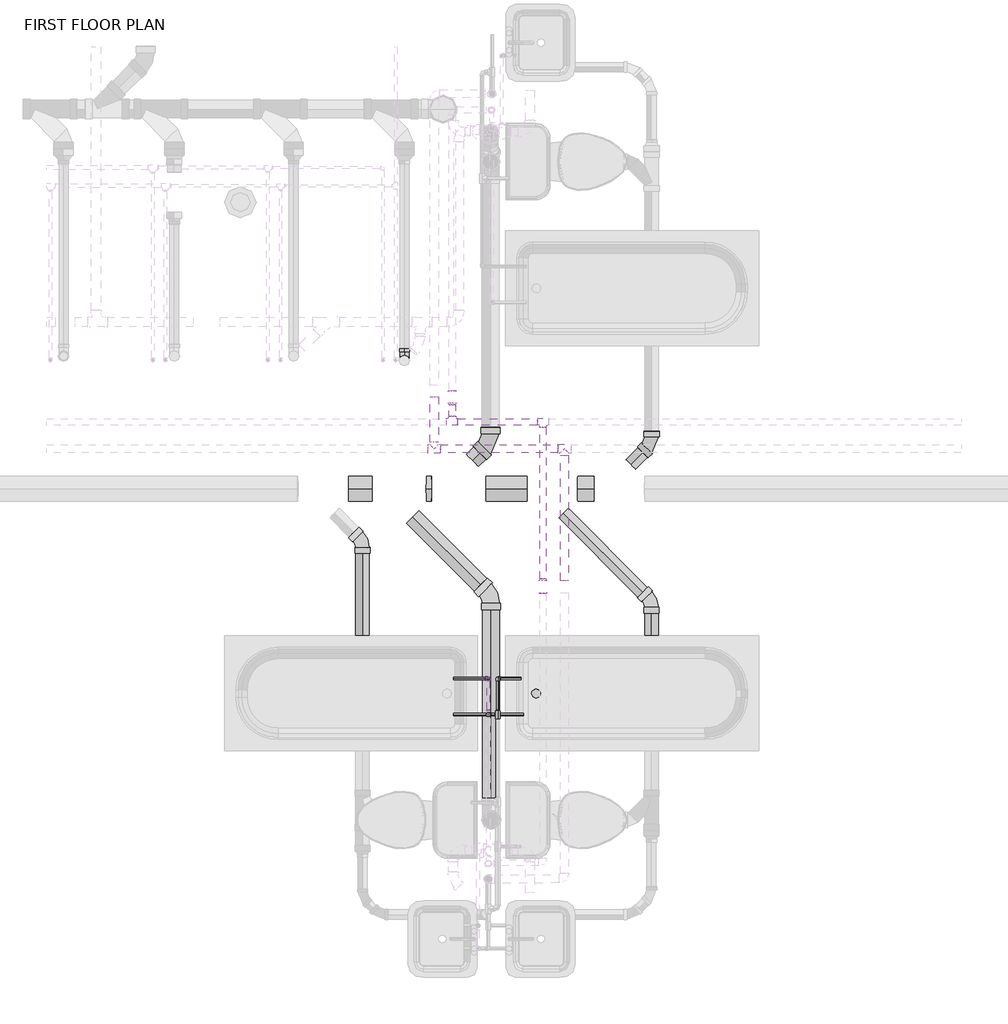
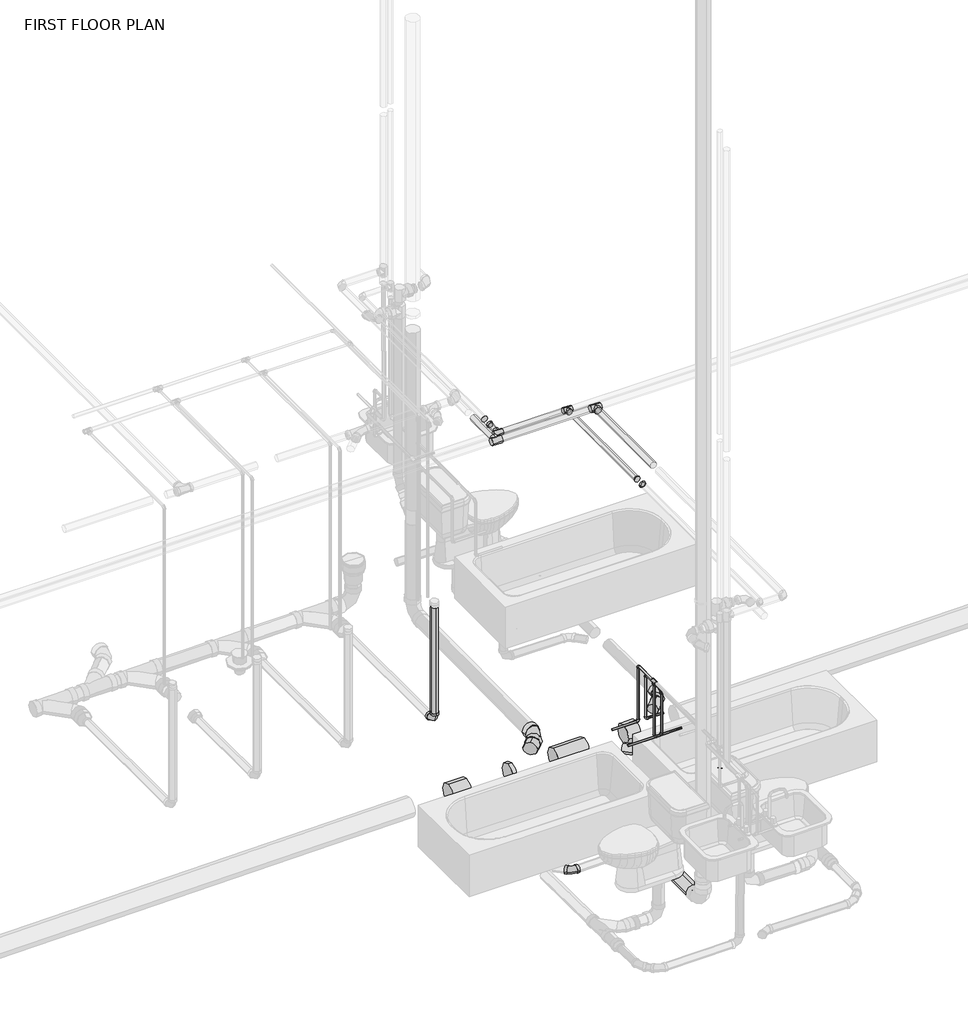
# One storey, part 24 of 29: 31 pipe segments, 29 pipe fittings.
"""IFC4 building model written with IfcOpenShell, lengths in millimetres."""

from ifc_helpers import new_model, si_unit, point, frame, frame_2d, origin, place, context, project, spatial, circle_curve, trimmed, segment, composite_curve, outline, extrude, transform, mapped, element, save
from components import bend_pvc_sch_40_dwv_standard_22595671, bend_pvc_sch_40_dwv_standard_3c7622ae, bend_pvc_sch_40_dwv_standard_52eb40f7, bend_pvc_sch_40_dwv_standard_dbf24498, bend_pvc_sch_40_dwv_standard_e2ec66d4, bend_pvc_sch_40_dwv_standard_2978f41e, bend_pvc_sch_40_dwv_standard_e57ccec4, bend_pvc_sch_40_dwv_standard_7045725e, bend_pvc_sch_40_dwv_standard_7d16cb2b, pipe_elbow_copper_k_aad62f2d, pipe_tee_copper_k_36278b8a, pipe_tee_copper_k_7127fd44, pipe_tee_copper_k_ee363fbf, pipe_transition_copper_k_c7248b3c, pipe_transition_copper_k_3b8d3413, pipe_transition_copper_k_859ff352

model = new_model("IFC4")

# Units and contexts
model_context = context("Model", 3, world=origin())
ifc_project = project(units=[si_unit("LENGTHUNIT", "METRE", prefix="MILLI")], contexts=[model_context])

# Site, building, storey
site = spatial("IfcSite", under=ifc_project)
building = spatial("IfcBuilding", under=site)
storey = spatial("IfcBuildingStorey", under=building, Name="FIRST FLOOR PLAN", Elevation=0.0)

# Pipe fittings
placement = place(None, origin())
bend_pvc_sch_40_dwv_standard_shape = bend_pvc_sch_40_dwv_standard_22595671(model_context)
element("IfcPipeFitting", 1, ObjectType="Bend - PVC - Sch 40 - DWV : Standard", at=placement, inside=storey, context=model_context, shape_type="MappedRepresentation", body=[
    mapped(bend_pvc_sch_40_dwv_standard_shape, transform((16286.4124034, 4158.2539362, -378.7287102), x_axis=(0.7066279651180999, -0.7075155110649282, 0.009935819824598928), y_axis=(0.7075086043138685, 0.7066884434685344, 0.004797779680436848), z_axis=(-0.010416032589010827, 0.003639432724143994, 0.9999391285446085))),
])
bend_pvc_sch_40_dwv_standard_2_shape = bend_pvc_sch_40_dwv_standard_3c7622ae(model_context)
element("IfcPipeFitting", 2, ObjectType="Bend - PVC - Sch 40 - DWV : Standard", at=placement, inside=storey, context=model_context, shape_type="MappedRepresentation", body=[
    mapped(bend_pvc_sch_40_dwv_standard_2_shape, transform((17237.9550186, 4158.7207118, -350.9217822), x_axis=(0.0, 0.0, -1.0), y_axis=(-1.0, 0.0, 0.0), z_axis=(0.0, 1.0, 0.0))),
])
bend_pvc_sch_40_dwv_standard_3_shape = bend_pvc_sch_40_dwv_standard_52eb40f7(model_context)
element("IfcPipeFitting", 3, ObjectType="Bend - PVC - Sch 40 - DWV : Standard", at=placement, inside=storey, context=model_context, shape_type="MappedRepresentation", body=[
    mapped(bend_pvc_sch_40_dwv_standard_3_shape, transform((17803.6568034, 4158.7207118, -356.8145091), x_axis=(-0.7066279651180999, -0.7075155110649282, 0.009935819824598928), y_axis=(0.7075086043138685, -0.7066884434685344, -0.004797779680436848), z_axis=(0.010416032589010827, 0.003639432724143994, 0.9999391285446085))),
])
bend_pvc_sch_40_dwv_standard_4_shape = bend_pvc_sch_40_dwv_standard_dbf24498(model_context)
element("IfcPipeFitting", 4, ObjectType="Bend - PVC - Sch 40 - DWV : Standard", at=placement, inside=storey, context=model_context, shape_type="MappedRepresentation", body=[
    mapped(bend_pvc_sch_40_dwv_standard_4_shape, transform((18002.3667471, 4770.9145691, -363.7822293), x_axis=(0.0, 0.9999701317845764, -0.0077288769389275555), y_axis=(-0.9999399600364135, -8.469252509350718e-05, -0.010957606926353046), z_axis=(-0.010957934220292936, 0.007728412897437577, 0.9999100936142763))),
])
bend_pvc_sch_40_dwv_standard_5_shape = bend_pvc_sch_40_dwv_standard_e2ec66d4(model_context)
element("IfcPipeFitting", 5, ObjectType="Bend - PVC - Sch 40 - DWV : Standard", at=placement, inside=storey, context=model_context, shape_type="MappedRepresentation", body=[
    mapped(bend_pvc_sch_40_dwv_standard_5_shape, transform((16365.3713415, 6363.442141, -362.0129996), x_axis=(-7.430675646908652e-06, 4.020402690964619e-05, -0.9999999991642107), y_axis=(4.804798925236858e-09, 0.9999999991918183, 4.020402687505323e-05), z_axis=(0.9999999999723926, -4.506055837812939e-09, -7.43067583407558e-06))),
])
bend_pvc_sch_40_dwv_standard_6_shape = bend_pvc_sch_40_dwv_standard_2978f41e(model_context)
element("IfcPipeFitting", 6, ObjectType="Bend - PVC - Sch 40 - DWV : Standard", at=placement, inside=storey, context=model_context, shape_type="MappedRepresentation", body=[
    mapped(bend_pvc_sch_40_dwv_standard_6_shape, transform((16939.2381199, 4808.1280837, -380.8956327), x_axis=(0.0, 1.0, 0.0), y_axis=(-0.9999457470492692, 0.0, -0.010416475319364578), z_axis=(-0.010416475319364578, 0.0, 0.9999457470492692))),
])
bend_pvc_sch_40_dwv_standard_7_shape = bend_pvc_sch_40_dwv_standard_e57ccec4(model_context)
element("IfcPipeFitting", 7, ObjectType="Bend - PVC - Sch 40 - DWV : Standard", at=placement, inside=storey, context=model_context, shape_type="MappedRepresentation", body=[
    mapped(bend_pvc_sch_40_dwv_standard_7_shape, transform((18002.6518493, 5813.1232004, -368.6354449), x_axis=(0.7070684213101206, 0.7070684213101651, 0.010416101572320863), y_axis=(-0.7070965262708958, 0.7071158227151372, -0.0013098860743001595), z_axis=(-0.00829156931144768, -0.006439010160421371, 0.9999448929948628))),
])
bend_pvc_sch_40_dwv_standard_8_shape = bend_pvc_sch_40_dwv_standard_7045725e(model_context)
element("IfcPipeFitting", 8, ObjectType="Bend - PVC - Sch 40 - DWV : Standard", at=placement, inside=storey, context=model_context, shape_type="MappedRepresentation", body=[
    mapped(bend_pvc_sch_40_dwv_standard_8_shape, transform((16087.4645224, 5167.6493109, -388.380548), x_axis=(0.0, 0.9999580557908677, 0.009158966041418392), y_axis=(-0.9997147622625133, 0.00021874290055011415, -0.023881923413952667), z_axis=(-0.02388292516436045, -0.009156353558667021, 0.9996728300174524))),
])
bend_pvc_sch_40_dwv_standard_9_shape = bend_pvc_sch_40_dwv_standard_7d16cb2b(model_context)
element("IfcPipeFitting", 9, ObjectType="Bend - PVC - Sch 40 - DWV : Standard", at=placement, inside=storey, context=model_context, shape_type="MappedRepresentation", body=[
    mapped(bend_pvc_sch_40_dwv_standard_9_shape, transform((16935.7564169, 5821.8758818, -379.6435202), x_axis=(0.7070666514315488, 0.7070642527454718, 0.010811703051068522), y_axis=(-0.7071300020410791, 0.7070728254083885, 0.0038961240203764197), z_axis=(-0.004889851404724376, -0.010400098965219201, 0.9999339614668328))),
])
pipe_elbow_copper_k_shape = pipe_elbow_copper_k_aad62f2d(model_context)
element("IfcPipeFitting", 10, ObjectType="Pipe Elbow : Copper- K", at=placement, inside=storey, context=model_context, shape_type="MappedRepresentation", body=[
    mapped(pipe_elbow_copper_k_shape, transform((16920.4834875, 4258.2262881, 1219.2), x_axis=(0.0, 1.0, 0.0), y_axis=(0.0, 0.0, -1.0), z_axis=(-1.0, 0.0, 0.0))),
])
element("IfcPipeFitting", 11, ObjectType="Pipe Elbow : Copper- K", at=placement, inside=storey, context=model_context, shape_type="MappedRepresentation", body=[
    mapped(pipe_elbow_copper_k_shape, transform((16920.4834875, 4258.2262881, 711.2), x_axis=(0.0, 0.0, -1.0), y_axis=(-1.0, 0.0, 0.0), z_axis=(0.0, 1.0, 0.0))),
])
element("IfcPipeFitting", 12, ObjectType="Pipe Elbow : Copper- K", at=placement, inside=storey, context=model_context, shape_type="MappedRepresentation", body=[
    mapped(pipe_elbow_copper_k_shape, transform((16920.4834875, 4018.2053571, 711.2), x_axis=(0.0, 0.0, -1.0), y_axis=(1.0, 0.0, 0.0), z_axis=(0.0, -1.0, 0.0))),
])
element("IfcPipeFitting", 13, ObjectType="Pipe Elbow : Copper- K", at=placement, inside=storey, context=model_context, shape_type="MappedRepresentation", body=[
    mapped(pipe_elbow_copper_k_shape, transform((16983.9834875, 4258.2262881, 1117.6), x_axis=(0.0, 1.0, 0.0), y_axis=(0.0, 0.0, -1.0), z_axis=(-1.0, 0.0, 0.0))),
])
element("IfcPipeFitting", 14, ObjectType="Pipe Elbow : Copper- K", at=placement, inside=storey, context=model_context, shape_type="MappedRepresentation", body=[
    mapped(pipe_elbow_copper_k_shape, transform((16983.9834875, 4258.2262881, 711.2), x_axis=(0.0, 0.0, -1.0), y_axis=(1.0, 0.0, 0.0), z_axis=(0.0, -1.0, 0.0))),
])
element("IfcPipeFitting", 15, ObjectType="Pipe Elbow : Copper- K", at=placement, inside=storey, context=model_context, shape_type="MappedRepresentation", body=[
    mapped(pipe_elbow_copper_k_shape, transform((16983.9834875, 4018.2053571, 711.2), x_axis=(0.0, 0.0, -1.0), y_axis=(-1.0, 0.0, 0.0), z_axis=(0.0, 1.0, 0.0))),
])
pipe_tee_copper_k_shape = pipe_tee_copper_k_36278b8a(model_context)
element("IfcPipeFitting", 16, ObjectType="Pipe Tee : Copper- K", at=placement, inside=storey, context=model_context, shape_type="MappedRepresentation", body=[
    mapped(pipe_tee_copper_k_shape, transform((16562.8624243, 5778.2175381, 2490.6882812), x_axis=(1.0, 0.0, 0.0), y_axis=(0.0, -1.0, 0.0), z_axis=(0.0, 0.0, -1.0))),
])
element("IfcPipeFitting", 17, ObjectType="Pipe Tee : Copper- K", at=placement, inside=storey, context=model_context, shape_type="MappedRepresentation", body=[
    mapped(pipe_tee_copper_k_shape, transform((17424.5084875, 5778.2175381, 2490.6882812), x_axis=(1.0, 0.0, 0.0), y_axis=(0.0, 1.0, 0.0), z_axis=(0.0, 0.0, 1.0))),
])
pipe_tee_copper_k_2_shape = pipe_tee_copper_k_7127fd44(model_context)
element("IfcPipeFitting", 18, ObjectType="Pipe Tee : Copper- K", at=placement, inside=storey, context=model_context, shape_type="MappedRepresentation", body=[
    mapped(pipe_tee_copper_k_2_shape, transform((16682.0146104, 5956.0175381, 2413.0), x_axis=(1.0, 0.0, 0.0), y_axis=(0.0, -1.0, 0.0), z_axis=(0.0, 0.0, -1.0))),
])
element("IfcPipeFitting", 19, ObjectType="Pipe Tee : Copper- K", at=placement, inside=storey, context=model_context, shape_type="MappedRepresentation", body=[
    mapped(pipe_tee_copper_k_2_shape, transform((17283.6898661, 5956.0175381, 2413.0), x_axis=(1.0, 0.0, 0.0), y_axis=(0.0, 1.0, 0.0), z_axis=(0.0, 0.0, 1.0))),
])
pipe_tee_copper_k_3_shape = pipe_tee_copper_k_ee363fbf(model_context)
element("IfcPipeFitting", 20, ObjectType="Pipe Tee : Copper- K", at=placement, inside=storey, context=model_context, shape_type="MappedRepresentation", body=[
    mapped(pipe_tee_copper_k_3_shape, transform((16920.4834875, 4018.2053571, 1219.2), x_axis=(0.0, -1.0, 0.0), y_axis=(0.0, 0.0, 1.0), z_axis=(-1.0, 0.0, 0.0))),
])
element("IfcPipeFitting", 21, ObjectType="Pipe Tee : Copper- K", at=placement, inside=storey, context=model_context, shape_type="MappedRepresentation", body=[
    mapped(pipe_tee_copper_k_3_shape, transform((16983.9834875, 4018.2053571, 1117.6), x_axis=(0.0, -1.0, 0.0), y_axis=(0.0, 0.0, 1.0), z_axis=(-1.0, 0.0, 0.0))),
])
pipe_transition_copper_k_shape = pipe_transition_copper_k_c7248b3c(model_context)
element("IfcPipeFitting", 22, ObjectType="Pipe Transition : Copper- K", at=placement, inside=storey, context=model_context, shape_type="MappedRepresentation", body=[
    mapped(pipe_transition_copper_k_shape, transform((16682.0146104, 6166.9606631, 2413.0), x_axis=(0.0, -1.0, 0.0), y_axis=(1.0, 0.0, 0.0), z_axis=(0.0, 0.0, 1.0))),
])
element("IfcPipeFitting", 23, ObjectType="Pipe Transition : Copper- K", at=placement, inside=storey, context=model_context, shape_type="MappedRepresentation", body=[
    mapped(pipe_transition_copper_k_shape, transform((17283.6898661, 4819.2049131, 2413.0), x_axis=(0.0, 1.0, 0.0), y_axis=(-1.0, 0.0, 0.0), z_axis=(0.0, 0.0, 1.0))),
])
pipe_transition_copper_k_2_shape = pipe_transition_copper_k_3b8d3413(model_context)
element("IfcPipeFitting", 24, ObjectType="Pipe Transition : Copper- K", at=placement, inside=storey, context=model_context, shape_type="MappedRepresentation", body=[
    mapped(pipe_transition_copper_k_2_shape, transform((16682.0146104, 6082.4897881, 2413.0), x_axis=(0.0, -1.0, 0.0), y_axis=(0.9999997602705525, 0.0, 0.0006924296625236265), z_axis=(-0.0006924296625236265, 0.0, 0.9999997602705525))),
])
element("IfcPipeFitting", 25, ObjectType="Pipe Transition : Copper- K", at=placement, inside=storey, context=model_context, shape_type="MappedRepresentation", body=[
    mapped(pipe_transition_copper_k_2_shape, transform((17283.6898661, 4903.6757881, 2413.0), x_axis=(0.0, 1.0, 0.0), y_axis=(-0.9999997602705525, 0.0, 0.0006924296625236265), z_axis=(0.0006924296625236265, 0.0, 0.9999997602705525))),
])
pipe_transition_copper_k_3_shape = pipe_transition_copper_k_859ff352(model_context)
element("IfcPipeFitting", 26, ObjectType="Pipe Transition : Copper- K", at=placement, inside=storey, context=model_context, shape_type="MappedRepresentation", body=[
    mapped(pipe_transition_copper_k_3_shape, transform((16920.4834875, 4018.2053571, 1192.2125), x_axis=(0.0, 0.0, -1.0), y_axis=(0.0, 1.0, 0.0), z_axis=(1.0, 0.0, 0.0))),
])
element("IfcPipeFitting", 27, ObjectType="Pipe Transition : Copper- K", at=placement, inside=storey, context=model_context, shape_type="MappedRepresentation", body=[
    mapped(pipe_transition_copper_k_3_shape, transform((16983.9834875, 4018.2053571, 1090.6125), x_axis=(0.0, 0.0, -1.0), y_axis=(0.0, -1.0, 0.0), z_axis=(-1.0, 0.0, 0.0))),
])
element("IfcPipeFitting", 28, ObjectType="Pipe Transition : Copper- K", at=placement, inside=storey, context=model_context, shape_type="MappedRepresentation", body=[
    mapped(pipe_transition_copper_k_3_shape, transform((16920.4834875, 4045.1928571, 1219.2), x_axis=(0.0, 1.0, 0.0), y_axis=(-1.0, 0.0, 0.0), z_axis=(0.0, 0.0, 1.0))),
])
element("IfcPipeFitting", 29, ObjectType="Pipe Transition : Copper- K", at=placement, inside=storey, context=model_context, shape_type="MappedRepresentation", body=[
    mapped(pipe_transition_copper_k_3_shape, transform((16983.9834875, 4045.1928571, 1117.6), x_axis=(0.0, 1.0, 0.0), y_axis=(-1.0, 0.0, 0.0), z_axis=(0.0, 0.0, 1.0))),
])

# Pipe segments
element("IfcPipeSegment", 30, ObjectType="Copper", at=placement, inside=storey, context=model_context, shape_type="SweptSolid", body=[
    extrude(outline(composite_curve([segment(trimmed(circle_curve(frame_2d((2490.6882812, 16562.8624243)), 26.9875), [point((2490.6882812, 16535.8749243))], [point((2463.7007812, 16562.8624243))], False, "CARTESIAN"), True, "CONTINUOUS"), segment(trimmed(circle_curve(frame_2d((2490.6882812, 16562.8624243)), 26.9875), [point((2463.7007812, 16562.8624243))], [point((2490.6882812, 16589.8499243))], False, "CARTESIAN"), True, "CONTINUOUS"), segment(trimmed(circle_curve(frame_2d((2490.6882812, 16562.8624243)), 26.9875), [point((2490.6882812, 16589.8499243))], [point((2517.6757812, 16562.8624243))], False, "CARTESIAN"), True, "CONTINUOUS"), segment(trimmed(circle_curve(frame_2d((2490.6882812, 16562.8624243)), 26.9875), [point((2517.6757812, 16562.8624243))], [point((2490.6882812, 16535.8749243))], False, "CARTESIAN"), True, "CONTINUOUS")], self_intersect=False)), frame((0.0, 5821.0800381, 0.0), z_axis=(0.0, 1.0, 0.0), x_axis=(0.0, 0.0, 1.0)), (0.0, 0.0, 1.0), 300.27175),
])
element("IfcPipeSegment", 31, ObjectType="Copper", at=placement, inside=storey, context=model_context, shape_type="SweptSolid", body=[
    extrude(outline(composite_curve([segment(trimmed(circle_curve(frame_2d((2413.0, 16682.0146104)), 20.6375), [point((2413.0, 16661.3771104))], [point((2392.3625, 16682.0146104))], False, "CARTESIAN"), True, "CONTINUOUS"), segment(trimmed(circle_curve(frame_2d((2413.0, 16682.0146104)), 20.6375), [point((2392.3625, 16682.0146104))], [point((2413.0, 16702.6521104))], False, "CARTESIAN"), True, "CONTINUOUS"), segment(trimmed(circle_curve(frame_2d((2413.0, 16682.0146104)), 20.6375), [point((2413.0, 16702.6521104))], [point((2433.6375, 16682.0146104))], False, "CARTESIAN"), True, "CONTINUOUS"), segment(trimmed(circle_curve(frame_2d((2413.0, 16682.0146104)), 20.6375), [point((2433.6375, 16682.0146104))], [point((2413.0, 16661.3771104))], False, "CARTESIAN"), True, "CONTINUOUS")], self_intersect=False)), frame((0.0, 5992.5300381, 0.0), z_axis=(0.0, 1.0, 0.0), x_axis=(0.0, 0.0, 1.0)), (0.0, 0.0, 1.0), 76.466),
])
element("IfcPipeSegment", 32, ObjectType="Copper", at=placement, inside=storey, context=model_context, shape_type="SweptSolid", body=[
    extrude(outline(composite_curve([segment(trimmed(circle_curve(frame_2d((2490.6882812, 17424.5084875)), 26.9875), [point((2490.6882812, 17451.4959875))], [point((2517.6757812, 17424.5084875))], False, "CARTESIAN"), True, "CONTINUOUS"), segment(trimmed(circle_curve(frame_2d((2490.6882812, 17424.5084875)), 26.9875), [point((2517.6757812, 17424.5084875))], [point((2490.6882812, 17397.5209875))], False, "CARTESIAN"), True, "CONTINUOUS"), segment(trimmed(circle_curve(frame_2d((2490.6882812, 17424.5084875)), 26.9875), [point((2490.6882812, 17397.5209875))], [point((2463.7007812, 17424.5084875))], False, "CARTESIAN"), True, "CONTINUOUS"), segment(trimmed(circle_curve(frame_2d((2490.6882812, 17424.5084875)), 26.9875), [point((2463.7007812, 17424.5084875))], [point((2490.6882812, 17451.4959875))], False, "CARTESIAN"), True, "CONTINUOUS")], self_intersect=False)), frame((0.0, 4903.6757881, 0.0), z_axis=(0.0, 1.0, 0.0), x_axis=(0.0, 0.0, 1.0)), (0.0, 0.0, 1.0), 831.67925),
])
element("IfcPipeSegment", 33, ObjectType="Copper", at=placement, inside=storey, context=model_context, shape_type="SweptSolid", body=[
    extrude(outline(composite_curve([segment(trimmed(circle_curve(frame_2d((2413.0, 17283.6898661)), 20.6375), [point((2413.0, 17304.3273661))], [point((2433.6375, 17283.6898661))], False, "CARTESIAN"), True, "CONTINUOUS"), segment(trimmed(circle_curve(frame_2d((2413.0, 17283.6898661)), 20.6375), [point((2433.6375, 17283.6898661))], [point((2413.0, 17263.0523661))], False, "CARTESIAN"), True, "CONTINUOUS"), segment(trimmed(circle_curve(frame_2d((2413.0, 17283.6898661)), 20.6375), [point((2413.0, 17263.0523661))], [point((2392.3625, 17283.6898661))], False, "CARTESIAN"), True, "CONTINUOUS"), segment(trimmed(circle_curve(frame_2d((2413.0, 17283.6898661)), 20.6375), [point((2392.3625, 17283.6898661))], [point((2413.0, 17304.3273661))], False, "CARTESIAN"), True, "CONTINUOUS")], self_intersect=False)), frame((0.0, 4917.1695381, 0.0), z_axis=(0.0, 1.0, 0.0), x_axis=(0.0, 0.0, 1.0)), (0.0, 0.0, 1.0), 1002.3355),
])
element("IfcPipeSegment", 34, ObjectType="Copper", at=placement, inside=storey, context=model_context, shape_type="SweptSolid", body=[
    extrude(outline(composite_curve([segment(trimmed(circle_curve(frame_2d((5778.2175381, 2490.6882812)), 26.9875), [point((5805.2050381, 2490.6882812))], [point((5778.2175381, 2463.7007812))], False, "CARTESIAN"), True, "CONTINUOUS"), segment(trimmed(circle_curve(frame_2d((5778.2175381, 2490.6882812)), 26.9875), [point((5778.2175381, 2463.7007812))], [point((5751.2300381, 2490.6882812))], False, "CARTESIAN"), True, "CONTINUOUS"), segment(trimmed(circle_curve(frame_2d((5778.2175381, 2490.6882812)), 26.9875), [point((5751.2300381, 2490.6882812))], [point((5778.2175381, 2517.6757812))], False, "CARTESIAN"), True, "CONTINUOUS"), segment(trimmed(circle_curve(frame_2d((5778.2175381, 2490.6882812)), 26.9875), [point((5778.2175381, 2517.6757812))], [point((5805.2050381, 2490.6882812))], False, "CARTESIAN"), True, "CONTINUOUS")], self_intersect=False)), frame((16605.7249243, 0.0, 0.0), z_axis=(1.0, 0.0, 0.0), x_axis=(0.0, 1.0, 0.0)), (0.0, 0.0, 1.0), 775.9210632),
])
element("IfcPipeSegment", 35, ObjectType="Copper", at=placement, inside=storey, context=model_context, shape_type="SweptSolid", body=[
    extrude(outline(composite_curve([segment(trimmed(circle_curve(frame_2d((5956.0175381, 2413.0)), 20.6375), [point((5976.6550381, 2413.0))], [point((5956.0175381, 2392.3625))], False, "CARTESIAN"), True, "CONTINUOUS"), segment(trimmed(circle_curve(frame_2d((5956.0175381, 2413.0)), 20.6375), [point((5956.0175381, 2392.3625))], [point((5935.3800381, 2413.0))], False, "CARTESIAN"), True, "CONTINUOUS"), segment(trimmed(circle_curve(frame_2d((5956.0175381, 2413.0)), 20.6375), [point((5935.3800381, 2413.0))], [point((5956.0175381, 2433.6375))], False, "CARTESIAN"), True, "CONTINUOUS"), segment(trimmed(circle_curve(frame_2d((5956.0175381, 2413.0)), 20.6375), [point((5956.0175381, 2433.6375))], [point((5976.6550381, 2413.0))], False, "CARTESIAN"), True, "CONTINUOUS")], self_intersect=False)), frame((16718.5271104, 0.0, 0.0), z_axis=(1.0, 0.0, 0.0), x_axis=(0.0, 1.0, 0.0)), (0.0, 0.0, 1.0), 528.6502557),
])
element("IfcPipeSegment", 36, ObjectType="Copper", at=placement, inside=storey, context=model_context, shape_type="SweptSolid", body=[
    extrude(outline(composite_curve([segment(trimmed(circle_curve(frame_2d((1219.2, 16920.4834875)), 7.9375), [point((1219.2, 16928.4209875))], [point((1227.1375, 16920.4834875))], False, "CARTESIAN"), True, "CONTINUOUS"), segment(trimmed(circle_curve(frame_2d((1219.2, 16920.4834875)), 7.9375), [point((1227.1375, 16920.4834875))], [point((1219.2, 16912.5459875))], False, "CARTESIAN"), True, "CONTINUOUS"), segment(trimmed(circle_curve(frame_2d((1219.2, 16920.4834875)), 7.9375), [point((1219.2, 16912.5459875))], [point((1211.2625, 16920.4834875))], False, "CARTESIAN"), True, "CONTINUOUS"), segment(trimmed(circle_curve(frame_2d((1219.2, 16920.4834875)), 7.9375), [point((1211.2625, 16920.4834875))], [point((1219.2, 16928.4209875))], False, "CARTESIAN"), True, "CONTINUOUS")], self_intersect=False)), frame((0.0, 4050.7491071, 0.0), z_axis=(0.0, 1.0, 0.0), x_axis=(0.0, 0.0, 1.0)), (0.0, 0.0, 1.0), 190.0146809),
])
element("IfcPipeSegment", 37, ObjectType="Copper", at=placement, inside=storey, context=model_context, shape_type="SweptSolid", body=[
    extrude(outline(composite_curve([segment(trimmed(circle_curve(frame_2d((4258.2262881, 711.2)), 7.9375), [point((4266.1637881, 711.2))], [point((4258.2262881, 703.2625))], False, "CARTESIAN"), True, "CONTINUOUS"), segment(trimmed(circle_curve(frame_2d((4258.2262881, 711.2)), 7.9375), [point((4258.2262881, 703.2625))], [point((4250.2887881, 711.2))], False, "CARTESIAN"), True, "CONTINUOUS"), segment(trimmed(circle_curve(frame_2d((4258.2262881, 711.2)), 7.9375), [point((4250.2887881, 711.2))], [point((4258.2262881, 719.1375))], False, "CARTESIAN"), True, "CONTINUOUS"), segment(trimmed(circle_curve(frame_2d((4258.2262881, 711.2)), 7.9375), [point((4258.2262881, 719.1375))], [point((4266.1637881, 711.2))], False, "CARTESIAN"), True, "CONTINUOUS")], self_intersect=False)), frame((16691.8834875, 0.0, 0.0), z_axis=(1.0, 0.0, 0.0), x_axis=(0.0, 1.0, 0.0)), (0.0, 0.0, 1.0), 211.1375),
])
element("IfcPipeSegment", 38, ObjectType="Copper", at=placement, inside=storey, context=model_context, shape_type="SweptSolid", body=[
    extrude(outline(composite_curve([segment(trimmed(circle_curve(frame_2d((16920.4834875, 4258.2262881)), 7.9375), [point((16928.4209875, 4258.2262881))], [point((16920.4834875, 4250.2887881))], False, "CARTESIAN"), True, "CONTINUOUS"), segment(trimmed(circle_curve(frame_2d((16920.4834875, 4258.2262881)), 7.9375), [point((16920.4834875, 4250.2887881))], [point((16912.5459875, 4258.2262881))], False, "CARTESIAN"), True, "CONTINUOUS"), segment(trimmed(circle_curve(frame_2d((16920.4834875, 4258.2262881)), 7.9375), [point((16912.5459875, 4258.2262881))], [point((16920.4834875, 4266.1637881))], False, "CARTESIAN"), True, "CONTINUOUS"), segment(trimmed(circle_curve(frame_2d((16920.4834875, 4258.2262881)), 7.9375), [point((16920.4834875, 4266.1637881))], [point((16928.4209875, 4258.2262881))], False, "CARTESIAN"), True, "CONTINUOUS")], self_intersect=False)), frame((0.0, 0.0, 728.6625), z_axis=(0.0, 0.0, 1.0), x_axis=(1.0, 0.0, 0.0)), (0.0, 0.0, 1.0), 473.075),
])
element("IfcPipeSegment", 39, ObjectType="Copper", at=placement, inside=storey, context=model_context, shape_type="SweptSolid", body=[
    extrude(outline(composite_curve([segment(trimmed(circle_curve(frame_2d((4018.2053571, 711.2)), 7.9375), [point((4010.2678571, 711.2))], [point((4018.2053571, 719.1375))], False, "CARTESIAN"), True, "CONTINUOUS"), segment(trimmed(circle_curve(frame_2d((4018.2053571, 711.2)), 7.9375), [point((4018.2053571, 719.1375))], [point((4026.1428571, 711.2))], False, "CARTESIAN"), True, "CONTINUOUS"), segment(trimmed(circle_curve(frame_2d((4018.2053571, 711.2)), 7.9375), [point((4026.1428571, 711.2))], [point((4018.2053571, 703.2625))], False, "CARTESIAN"), True, "CONTINUOUS"), segment(trimmed(circle_curve(frame_2d((4018.2053571, 711.2)), 7.9375), [point((4018.2053571, 703.2625))], [point((4010.2678571, 711.2))], False, "CARTESIAN"), True, "CONTINUOUS")], self_intersect=False)), frame((16937.9459875, 0.0, 0.0), z_axis=(1.0, 0.0, 0.0), x_axis=(0.0, 1.0, 0.0)), (0.0, 0.0, 1.0), 217.4875),
])
element("IfcPipeSegment", 40, ObjectType="Copper", at=placement, inside=storey, context=model_context, shape_type="SweptSolid", body=[
    extrude(outline(composite_curve([segment(trimmed(circle_curve(frame_2d((16920.4834875, 4018.2053571)), 7.9375), [point((16928.4209875, 4018.2053571))], [point((16920.4834875, 4010.2678571))], False, "CARTESIAN"), True, "CONTINUOUS"), segment(trimmed(circle_curve(frame_2d((16920.4834875, 4018.2053571)), 7.9375), [point((16920.4834875, 4010.2678571))], [point((16912.5459875, 4018.2053571))], False, "CARTESIAN"), True, "CONTINUOUS"), segment(trimmed(circle_curve(frame_2d((16920.4834875, 4018.2053571)), 7.9375), [point((16912.5459875, 4018.2053571))], [point((16920.4834875, 4026.1428571))], False, "CARTESIAN"), True, "CONTINUOUS"), segment(trimmed(circle_curve(frame_2d((16920.4834875, 4018.2053571)), 7.9375), [point((16920.4834875, 4026.1428571))], [point((16928.4209875, 4018.2053571))], False, "CARTESIAN"), True, "CONTINUOUS")], self_intersect=False)), frame((0.0, 0.0, 728.6625), z_axis=(0.0, 0.0, 1.0), x_axis=(1.0, 0.0, 0.0)), (0.0, 0.0, 1.0), 457.99375),
])
element("IfcPipeSegment", 41, ObjectType="Copper", at=placement, inside=storey, context=model_context, shape_type="SweptSolid", body=[
    extrude(outline(composite_curve([segment(trimmed(circle_curve(frame_2d((1117.6, 16983.9834875)), 7.9375), [point((1117.6, 16991.9209875))], [point((1125.5375, 16983.9834875))], False, "CARTESIAN"), True, "CONTINUOUS"), segment(trimmed(circle_curve(frame_2d((1117.6, 16983.9834875)), 7.9375), [point((1125.5375, 16983.9834875))], [point((1117.6, 16976.0459875))], False, "CARTESIAN"), True, "CONTINUOUS"), segment(trimmed(circle_curve(frame_2d((1117.6, 16983.9834875)), 7.9375), [point((1117.6, 16976.0459875))], [point((1109.6625, 16983.9834875))], False, "CARTESIAN"), True, "CONTINUOUS"), segment(trimmed(circle_curve(frame_2d((1117.6, 16983.9834875)), 7.9375), [point((1109.6625, 16983.9834875))], [point((1117.6, 16991.9209875))], False, "CARTESIAN"), True, "CONTINUOUS")], self_intersect=False)), frame((0.0, 4050.7491071, 0.0), z_axis=(0.0, 1.0, 0.0), x_axis=(0.0, 0.0, 1.0)), (0.0, 0.0, 1.0), 190.0146809),
])
element("IfcPipeSegment", 42, ObjectType="Copper", at=placement, inside=storey, context=model_context, shape_type="SweptSolid", body=[
    extrude(outline(composite_curve([segment(trimmed(circle_curve(frame_2d((4258.2262881, 711.2)), 7.9375), [point((4250.2887881, 711.2))], [point((4258.2262881, 719.1375))], False, "CARTESIAN"), True, "CONTINUOUS"), segment(trimmed(circle_curve(frame_2d((4258.2262881, 711.2)), 7.9375), [point((4258.2262881, 719.1375))], [point((4266.1637881, 711.2))], False, "CARTESIAN"), True, "CONTINUOUS"), segment(trimmed(circle_curve(frame_2d((4258.2262881, 711.2)), 7.9375), [point((4266.1637881, 711.2))], [point((4258.2262881, 703.2625))], False, "CARTESIAN"), True, "CONTINUOUS"), segment(trimmed(circle_curve(frame_2d((4258.2262881, 711.2)), 7.9375), [point((4258.2262881, 703.2625))], [point((4250.2887881, 711.2))], False, "CARTESIAN"), True, "CONTINUOUS")], self_intersect=False)), frame((17001.4459875, 0.0, 0.0), z_axis=(1.0, 0.0, 0.0), x_axis=(0.0, 1.0, 0.0)), (0.0, 0.0, 1.0), 134.9375),
])
element("IfcPipeSegment", 43, ObjectType="Copper", at=placement, inside=storey, context=model_context, shape_type="SweptSolid", body=[
    extrude(outline(composite_curve([segment(trimmed(circle_curve(frame_2d((16983.9834875, 4258.2262881)), 7.9375), [point((16991.9209875, 4258.2262881))], [point((16983.9834875, 4250.2887881))], False, "CARTESIAN"), True, "CONTINUOUS"), segment(trimmed(circle_curve(frame_2d((16983.9834875, 4258.2262881)), 7.9375), [point((16983.9834875, 4250.2887881))], [point((16976.0459875, 4258.2262881))], False, "CARTESIAN"), True, "CONTINUOUS"), segment(trimmed(circle_curve(frame_2d((16983.9834875, 4258.2262881)), 7.9375), [point((16976.0459875, 4258.2262881))], [point((16983.9834875, 4266.1637881))], False, "CARTESIAN"), True, "CONTINUOUS"), segment(trimmed(circle_curve(frame_2d((16983.9834875, 4258.2262881)), 7.9375), [point((16983.9834875, 4266.1637881))], [point((16991.9209875, 4258.2262881))], False, "CARTESIAN"), True, "CONTINUOUS")], self_intersect=False)), frame((0.0, 0.0, 728.6625), z_axis=(0.0, 0.0, 1.0), x_axis=(1.0, 0.0, 0.0)), (0.0, 0.0, 1.0), 371.475),
])
element("IfcPipeSegment", 44, ObjectType="Copper", at=placement, inside=storey, context=model_context, shape_type="SweptSolid", body=[
    extrude(outline(composite_curve([segment(trimmed(circle_curve(frame_2d((4018.2053571, 711.2)), 7.9375), [point((4026.1428571, 711.2))], [point((4018.2053571, 703.2625))], False, "CARTESIAN"), True, "CONTINUOUS"), segment(trimmed(circle_curve(frame_2d((4018.2053571, 711.2)), 7.9375), [point((4018.2053571, 703.2625))], [point((4010.2678571, 711.2))], False, "CARTESIAN"), True, "CONTINUOUS"), segment(trimmed(circle_curve(frame_2d((4018.2053571, 711.2)), 7.9375), [point((4010.2678571, 711.2))], [point((4018.2053571, 719.1375))], False, "CARTESIAN"), True, "CONTINUOUS"), segment(trimmed(circle_curve(frame_2d((4018.2053571, 711.2)), 7.9375), [point((4018.2053571, 719.1375))], [point((4026.1428571, 711.2))], False, "CARTESIAN"), True, "CONTINUOUS")], self_intersect=False)), frame((16691.8834875, 0.0, 0.0), z_axis=(1.0, 0.0, 0.0), x_axis=(0.0, 1.0, 0.0)), (0.0, 0.0, 1.0), 274.6375),
])
element("IfcPipeSegment", 45, ObjectType="Copper", at=placement, inside=storey, context=model_context, shape_type="SweptSolid", body=[
    extrude(outline(composite_curve([segment(trimmed(circle_curve(frame_2d((16983.9834875, 4018.2053571)), 7.9375), [point((16991.9209875, 4018.2053571))], [point((16983.9834875, 4010.2678571))], False, "CARTESIAN"), True, "CONTINUOUS"), segment(trimmed(circle_curve(frame_2d((16983.9834875, 4018.2053571)), 7.9375), [point((16983.9834875, 4010.2678571))], [point((16976.0459875, 4018.2053571))], False, "CARTESIAN"), True, "CONTINUOUS"), segment(trimmed(circle_curve(frame_2d((16983.9834875, 4018.2053571)), 7.9375), [point((16976.0459875, 4018.2053571))], [point((16983.9834875, 4026.1428571))], False, "CARTESIAN"), True, "CONTINUOUS"), segment(trimmed(circle_curve(frame_2d((16983.9834875, 4018.2053571)), 7.9375), [point((16983.9834875, 4026.1428571))], [point((16991.9209875, 4018.2053571))], False, "CARTESIAN"), True, "CONTINUOUS")], self_intersect=False)), frame((0.0, 0.0, 728.6625), z_axis=(0.0, 0.0, 1.0), x_axis=(1.0, 0.0, 0.0)), (0.0, 0.0, 1.0), 356.39375),
])
element("IfcPipeSegment", 46, ObjectType="PVC - SAN/STORM", at=placement, inside=storey, context=model_context, shape_type="SweptSolid", body=[
    extrude(outline(composite_curve([segment(trimmed(circle_curve(frame_2d((0.0, -30.1625001)), 30.1625), [point((-30.1625, -30.1625297))], [point((-2.96e-05, 0.0))], False, "CARTESIAN"), True, "CONTINUOUS"), segment(trimmed(circle_curve(frame_2d((0.0, -30.1625001)), 30.1625), [point((-2.96e-05, 0.0))], [point((30.1625, -30.1624704))], False, "CARTESIAN"), True, "CONTINUOUS"), segment(trimmed(circle_curve(frame_2d((0.0, -30.1625001)), 30.1625), [point((30.1625, -30.1624704))], [point((2.96e-05, -60.325))], False, "CARTESIAN"), True, "CONTINUOUS"), segment(trimmed(circle_curve(frame_2d((0.0, -30.1625001)), 30.1625), [point((2.96e-05, -60.325))], [point((-30.1625, -30.1625297))], False, "CARTESIAN"), True, "CONTINUOUS")], self_intersect=False)), frame((17237.9550186, 4128.5582369, -273.1605361), z_axis=(-0.0007602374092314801, -0.0012914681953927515, 0.9999988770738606), x_axis=(-0.999999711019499, 9.818227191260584e-07, -0.0007602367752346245)), (0.0, 0.0, 1.0), 325.9159309),
])
element("IfcPipeSegment", 47, ObjectType="PVC - SAN/STORM", at=placement, inside=storey, context=model_context, shape_type="SweptSolid", body=[
    extrude(outline(composite_curve([segment(trimmed(circle_curve(frame_2d((0.0, -30.1625)), 30.1625), [point((0.0, -60.325))], [point((-30.1625001, -30.1625))], False, "CARTESIAN"), True, "CONTINUOUS"), segment(trimmed(circle_curve(frame_2d((0.0, -30.1625)), 30.1625), [point((-30.1625001, -30.1625))], [point((0.0, 0.0))], False, "CARTESIAN"), True, "CONTINUOUS"), segment(trimmed(circle_curve(frame_2d((0.0, -30.1625)), 30.1625), [point((0.0, 0.0))], [point((30.1625, -30.1625))], False, "CARTESIAN"), True, "CONTINUOUS"), segment(trimmed(circle_curve(frame_2d((0.0, -30.1625)), 30.1625), [point((30.1625, -30.1625))], [point((0.0, -60.325))], False, "CARTESIAN"), True, "CONTINUOUS")], self_intersect=False)), frame((17751.2594461, 4188.8832118, -356.2687033), z_axis=(-0.9999457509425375, 0.0, 0.01041610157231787), x_axis=(0.01041610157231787, 0.0, 0.9999457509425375)), (0.0, 0.0, 1.0), 435.5320753),
])
element("IfcPipeSegment", 48, ObjectType="PVC - SAN/STORM", at=placement, inside=storey, context=model_context, shape_type="SweptSolid", body=[
    extrude(outline(composite_curve([segment(trimmed(circle_curve(frame_2d((0.0, -30.1625)), 30.1625), [point((30.161015, -30.4617985))], [point((-0.2992985, -60.3235151))], False, "CARTESIAN"), True, "CONTINUOUS"), segment(trimmed(circle_curve(frame_2d((0.0, -30.1625)), 30.1625), [point((-0.2992985, -60.3235151))], [point((-30.161015, -29.8632015))], False, "CARTESIAN"), True, "CONTINUOUS"), segment(trimmed(circle_curve(frame_2d((0.0, -30.1625)), 30.1625), [point((-30.161015, -29.8632015))], [point((0.2992985, -0.001485))], False, "CARTESIAN"), True, "CONTINUOUS"), segment(trimmed(circle_curve(frame_2d((0.0, -30.1625)), 30.1625), [point((0.2992985, -0.001485))], [point((30.161015, -30.4617985))], False, "CARTESIAN"), True, "CONTINUOUS")], self_intersect=False)), frame((17905.8941329, 4261.5099923, -328.092531), z_axis=(-0.7066279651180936, -0.7075155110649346, 0.009935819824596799), x_axis=(0.7075852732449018, -0.706558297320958, 0.009922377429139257)), (0.0, 0.0, 1.0), 92.28319),
])
element("IfcPipeSegment", 49, ObjectType="PVC - SAN/STORM", at=placement, inside=storey, context=model_context, shape_type="SweptSolid", body=[
    extrude(outline(composite_curve([segment(trimmed(circle_curve(frame_2d((0.0, -44.45)), 44.45), [point((44.45, -44.45))], [point((0.0, -88.9))], False, "CARTESIAN"), True, "CONTINUOUS"), segment(trimmed(circle_curve(frame_2d((0.0, -44.45)), 44.45), [point((0.0, -88.9))], [point((-44.45, -44.45))], False, "CARTESIAN"), True, "CONTINUOUS"), segment(trimmed(circle_curve(frame_2d((0.0, -44.45)), 44.45), [point((-44.45, -44.45))], [point((0.0, 0.0))], False, "CARTESIAN"), True, "CONTINUOUS"), segment(trimmed(circle_curve(frame_2d((0.0, -44.45)), 44.45), [point((0.0, 0.0))], [point((44.45, -44.45))], False, "CARTESIAN"), True, "CONTINUOUS")], self_intersect=False)), frame((18002.3667471, 4690.4047834, -318.7087933), z_axis=(0.0, -0.9999457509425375, 0.010416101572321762), x_axis=(1.0, 0.0, 0.0)), (0.0, 0.0, 1.0), 271.9557079),
])
element("IfcPipeSegment", 50, ObjectType="PVC - SAN/STORM", at=placement, inside=storey, context=model_context, shape_type="SweptSolid", body=[
    extrude(outline(composite_curve([segment(trimmed(circle_curve(frame_2d((0.0, -44.45)), 44.45), [point((44.4461197, -43.8626861))], [point((0.5873139, -88.8961197))], False, "CARTESIAN"), True, "CONTINUOUS"), segment(trimmed(circle_curve(frame_2d((0.0, -44.45)), 44.45), [point((0.5873139, -88.8961197))], [point((-44.4461198, -45.0373138))], False, "CARTESIAN"), True, "CONTINUOUS"), segment(trimmed(circle_curve(frame_2d((0.0, -44.45)), 44.45), [point((-44.4461198, -45.0373138))], [point((-0.5873138, -0.0038802))], False, "CARTESIAN"), True, "CONTINUOUS"), segment(trimmed(circle_curve(frame_2d((0.0, -44.45)), 44.45), [point((-0.5873138, -0.0038802))], [point((44.4461197, -43.8626861))], False, "CARTESIAN"), True, "CONTINUOUS")], self_intersect=False)), frame((17420.8526173, 5353.2273939, -330.2070953), z_axis=(0.7070644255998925, -0.7070256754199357, 0.013213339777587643), x_axis=(0.7071491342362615, 0.7069409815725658, -0.013211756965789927)), (0.0, 0.0, 1.0), 741.4592327),
])
element("IfcPipeSegment", 51, ObjectType="PVC - SAN/STORM", at=placement, inside=storey, context=model_context, shape_type="SweptSolid", body=[
    extrude(outline(composite_curve([segment(trimmed(circle_curve(frame_2d((0.0, 44.4500001)), 44.45), [point((-44.45, 44.4500001))], [point((0.0, 88.9))], False, "CARTESIAN"), True, "CONTINUOUS"), segment(trimmed(circle_curve(frame_2d((0.0, 44.4500001)), 44.45), [point((0.0, 88.9))], [point((44.45, 44.4500001))], False, "CARTESIAN"), True, "CONTINUOUS"), segment(trimmed(circle_curve(frame_2d((0.0, 44.4500001)), 44.45), [point((44.45, 44.4500001))], [point((0.0, 0.0))], False, "CARTESIAN"), True, "CONTINUOUS"), segment(trimmed(circle_curve(frame_2d((0.0, 44.4500001)), 44.45), [point((0.0, 0.0))], [point((-44.45, 44.4500001))], False, "CARTESIAN"), True, "CONTINUOUS")], self_intersect=False)), frame((16087.4645224, 5086.2145116, -433.5697858), z_axis=(0.0, -0.9999457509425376, 0.010416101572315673), x_axis=(1.0, 0.0, 0.0)), (0.0, 0.0, 1.0), 668.9403676),
])
element("IfcPipeSegment", 52, ObjectType="PVC - SAN/STORM", at=placement, inside=storey, context=model_context, shape_type="SweptSolid", body=[
    extrude(outline(composite_curve([segment(trimmed(circle_curve(frame_2d((-380.8956327, 16939.2381199)), 57.15), [point((-380.8956327, 16996.3881199))], [point((-323.7456327, 16939.2381199))], False, "CARTESIAN"), True, "CONTINUOUS"), segment(trimmed(circle_curve(frame_2d((-380.8956327, 16939.2381199)), 57.15), [point((-323.7456327, 16939.2381199))], [point((-380.8956327, 16882.0881199))], False, "CARTESIAN"), True, "CONTINUOUS"), segment(trimmed(circle_curve(frame_2d((-380.8956327, 16939.2381199)), 57.15), [point((-380.8956327, 16882.0881199))], [point((-438.0456327, 16939.2381199))], False, "CARTESIAN"), True, "CONTINUOUS"), segment(trimmed(circle_curve(frame_2d((-380.8956327, 16939.2381199)), 57.15), [point((-438.0456327, 16939.2381199))], [point((-380.8956327, 16996.3881199))], False, "CARTESIAN"), True, "CONTINUOUS")], self_intersect=False)), frame((0.0, 3464.7137881, 0.0), z_axis=(0.0, 1.0, 0.0), x_axis=(0.0, 0.0, 1.0)), (0.0, 0.0, 1.0), 1246.5640957),
])
element("IfcPipeSegment", 53, ObjectType="PVC - SAN/STORM", at=placement, inside=storey, context=model_context, shape_type="SweptSolid", body=[
    extrude(outline(composite_curve([segment(trimmed(circle_curve(frame_2d((0.0, -57.1500001)), 57.15), [point((57.1484477, -56.7287824))], [point((0.4212177, -114.2984477))], False, "CARTESIAN"), True, "CONTINUOUS"), segment(trimmed(circle_curve(frame_2d((0.0, -57.1500001)), 57.15), [point((0.4212177, -114.2984477))], [point((-57.1484477, -57.5712177))], False, "CARTESIAN"), True, "CONTINUOUS"), segment(trimmed(circle_curve(frame_2d((0.0, -57.1500001)), 57.15), [point((-57.1484477, -57.5712177))], [point((-0.4212176, -0.0015523))], False, "CARTESIAN"), True, "CONTINUOUS"), segment(trimmed(circle_curve(frame_2d((0.0, -57.1500001)), 57.15), [point((-0.4212176, -0.0015523))], [point((57.1484477, -56.7287824))], False, "CARTESIAN"), True, "CONTINUOUS")], self_intersect=False)), frame((16420.8489908, 5326.8863561, -329.1488165), z_axis=(0.7072420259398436, -0.7069331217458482, 0.007367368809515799), x_axis=(0.7069715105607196, 0.707203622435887, -0.007370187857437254)), (0.0, 0.0, 1.0), 636.1225449),
])
element("IfcPipeSegment", 54, ObjectType="PVC - SAN/STORM", at=placement, inside=storey, context=model_context, shape_type="SweptSolid", body=[
    extrude(outline(composite_curve([segment(trimmed(circle_curve(frame_2d((0.0, -84.1375)), 84.1375), [point((0.0, 0.0))], [point((84.1375, -84.1375))], False, "CARTESIAN"), True, "CONTINUOUS"), segment(trimmed(circle_curve(frame_2d((0.0, -84.1375)), 84.1375), [point((84.1375, -84.1375))], [point((0.0, -168.275))], False, "CARTESIAN"), True, "CONTINUOUS"), segment(trimmed(circle_curve(frame_2d((0.0, -84.1375)), 84.1375), [point((0.0, -168.275))], [point((-84.1375, -84.1375))], False, "CARTESIAN"), True, "CONTINUOUS"), segment(trimmed(circle_curve(frame_2d((0.0, -84.1375)), 84.1375), [point((-84.1375, -84.1375))], [point((0.0, 0.0))], False, "CARTESIAN"), True, "CONTINUOUS")], self_intersect=False)), frame((16510.6762113, 5598.1603988, -385.4669108), z_axis=(0.999945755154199, 0.0, 0.010415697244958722), x_axis=(0.010415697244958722, 0.0, -0.999945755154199)), (0.0, 0.0, 1.0), 34.6831744),
])
element("IfcPipeSegment", 55, ObjectType="PVC - SAN/STORM", at=placement, inside=storey, context=model_context, shape_type="SweptSolid", body=[
    extrude(outline(composite_curve([segment(trimmed(circle_curve(frame_2d((0.0, 30.1625)), 30.1625), [point((-30.1625, 30.1625001))], [point((1e-07, 60.3250001))], False, "CARTESIAN"), True, "CONTINUOUS"), segment(trimmed(circle_curve(frame_2d((0.0, 30.1625)), 30.1625), [point((1e-07, 60.3250001))], [point((30.1625, 30.1625))], False, "CARTESIAN"), True, "CONTINUOUS"), segment(trimmed(circle_curve(frame_2d((0.0, 30.1625)), 30.1625), [point((30.1625, 30.1625))], [point((0.0, 0.0))], False, "CARTESIAN"), True, "CONTINUOUS"), segment(trimmed(circle_curve(frame_2d((0.0, 30.1625)), 30.1625), [point((0.0, 0.0))], [point((-30.1625, 30.1625001))], False, "CARTESIAN"), True, "CONTINUOUS")], self_intersect=False)), frame((16365.3719196, 6333.2765131, -284.2142357), z_axis=(1.8444363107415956e-05, -4.761038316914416e-05, 0.9999999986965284), x_axis=(0.9999999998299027, 8.781420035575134e-10, -1.8444363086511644e-05)), (0.0, 0.0, 1.0), 969.4882543),
])
element("IfcPipeSegment", 56, ObjectType="PVC - SAN/STORM", at=placement, inside=storey, context=model_context, shape_type="SweptSolid", body=[
    extrude(outline(composite_curve([segment(trimmed(circle_curve(frame_2d((0.0, 57.1500001)), 57.15), [point((57.14666, 56.5321452))], [point((-0.6178549, 0.00334))], False, "CARTESIAN"), True, "CONTINUOUS"), segment(trimmed(circle_curve(frame_2d((0.0, 57.1500001)), 57.15), [point((-0.6178549, 0.00334))], [point((-57.1466601, 57.7678549))], False, "CARTESIAN"), True, "CONTINUOUS"), segment(trimmed(circle_curve(frame_2d((0.0, 57.1500001)), 57.15), [point((-57.1466601, 57.7678549))], [point((0.6178548, 114.2966601))], False, "CARTESIAN"), True, "CONTINUOUS"), segment(trimmed(circle_curve(frame_2d((0.0, 57.1500001)), 57.15), [point((0.6178548, 114.2966601))], [point((57.14666, 56.5321452))], False, "CARTESIAN"), True, "CONTINUOUS")], self_intersect=False)), frame((16815.6266384, 5700.8727336, -324.3370956), z_axis=(0.7070666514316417, 0.7070642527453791, 0.010811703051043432), x_axis=(0.707146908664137, -0.7069840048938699, -0.010810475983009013)), (0.0, 0.0, 1.0), 69.8736041),
])
element("IfcPipeSegment", 57, ObjectType="PVC - SAN/STORM", at=placement, inside=storey, context=model_context, shape_type="SweptSolid", body=[
    extrude(outline(composite_curve([segment(trimmed(circle_curve(frame_2d((0.0, -84.1375)), 84.1375), [point((0.0, 0.0))], [point((84.1375, -84.1375))], False, "CARTESIAN"), True, "CONTINUOUS"), segment(trimmed(circle_curve(frame_2d((0.0, -84.1375)), 84.1375), [point((84.1375, -84.1375))], [point((0.0, -168.275))], False, "CARTESIAN"), True, "CONTINUOUS"), segment(trimmed(circle_curve(frame_2d((0.0, -84.1375)), 84.1375), [point((0.0, -168.275))], [point((-84.1375, -84.1375))], False, "CARTESIAN"), True, "CONTINUOUS"), segment(trimmed(circle_curve(frame_2d((0.0, -84.1375)), 84.1375), [point((-84.1375, -84.1375))], [point((0.0, 0.0))], False, "CARTESIAN"), True, "CONTINUOUS")], self_intersect=False)), frame((16905.4767523, 5598.1603988, -381.3545648), z_axis=(0.999945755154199, 0.0, 0.010415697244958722), x_axis=(0.010415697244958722, 0.0, -0.999945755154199)), (0.0, 0.0, 1.0), 271.210127),
])
element("IfcPipeSegment", 58, ObjectType="PVC - SAN/STORM", at=placement, inside=storey, context=model_context, shape_type="SweptSolid", body=[
    extrude(outline(composite_curve([segment(trimmed(circle_curve(frame_2d((0.0, -44.45)), 44.45), [point((-44.4475889, -43.9870294))], [point((0.4629706, -0.0024111))], False, "CARTESIAN"), True, "CONTINUOUS"), segment(trimmed(circle_curve(frame_2d((0.0, -44.45)), 44.45), [point((0.4629706, -0.0024111))], [point((44.4475889, -44.9129706))], False, "CARTESIAN"), True, "CONTINUOUS"), segment(trimmed(circle_curve(frame_2d((0.0, -44.45)), 44.45), [point((44.4475889, -44.9129706))], [point((-0.4629706, -88.8975889))], False, "CARTESIAN"), True, "CONTINUOUS"), segment(trimmed(circle_curve(frame_2d((0.0, -44.45)), 44.45), [point((-0.4629706, -88.8975889))], [point((-44.4475889, -43.9870294))], False, "CARTESIAN"), True, "CONTINUOUS")], self_intersect=False)), frame((17865.1873888, 5676.3134792, -415.1056653), z_axis=(0.7070684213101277, 0.7070684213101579, 0.010416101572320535), x_axis=(0.7071451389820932, -0.706991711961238, -0.010414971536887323)), (0.0, 0.0, 1.0), 111.8646512),
])
element("IfcPipeSegment", 59, ObjectType="PVC - SAN/STORM", at=placement, inside=storey, context=model_context, shape_type="SweptSolid", body=[
    extrude(outline(composite_curve([segment(trimmed(circle_curve(frame_2d((0.0, -84.1375)), 84.1375), [point((0.0, 0.0))], [point((84.1375, -84.1375))], False, "CARTESIAN"), True, "CONTINUOUS"), segment(trimmed(circle_curve(frame_2d((0.0, -84.1375)), 84.1375), [point((84.1375, -84.1375))], [point((0.0, -168.275))], False, "CARTESIAN"), True, "CONTINUOUS"), segment(trimmed(circle_curve(frame_2d((0.0, -84.1375)), 84.1375), [point((0.0, -168.275))], [point((-84.1374999, -84.1375))], False, "CARTESIAN"), True, "CONTINUOUS"), segment(trimmed(circle_curve(frame_2d((0.0, -84.1375)), 84.1375), [point((-84.1374999, -84.1375))], [point((0.0, 0.0))], False, "CARTESIAN"), True, "CONTINUOUS")], self_intersect=False)), frame((17513.2039115, 5598.1603988, -375.0243193), z_axis=(0.9999457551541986, 0.0, 0.010415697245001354), x_axis=(0.010415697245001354, 0.0, -0.9999457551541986)), (0.0, 0.0, 1.0), 107.8079622),
])
element("IfcPipeSegment", 60, ObjectType="PVC - SAN/STORM", at=placement, inside=storey, context=model_context, shape_type="SweptSolid", body=[
    extrude(outline(composite_curve([segment(trimmed(circle_curve(frame_2d((0.0, -84.1375)), 84.1375), [point((0.0, 0.0))], [point((84.1375, -84.1375))], False, "CARTESIAN"), True, "CONTINUOUS"), segment(trimmed(circle_curve(frame_2d((0.0, -84.1375)), 84.1375), [point((84.1375, -84.1375))], [point((0.0, -168.275))], False, "CARTESIAN"), True, "CONTINUOUS"), segment(trimmed(circle_curve(frame_2d((0.0, -84.1375)), 84.1375), [point((0.0, -168.275))], [point((-84.1375, -84.1375))], False, "CARTESIAN"), True, "CONTINUOUS"), segment(trimmed(circle_curve(frame_2d((0.0, -84.1375)), 84.1375), [point((-84.1375, -84.1375))], [point((0.0, 0.0))], False, "CARTESIAN"), True, "CONTINUOUS")], self_intersect=False)), frame((15995.0771563, 5598.1603988, -390.8375258), z_axis=(0.999945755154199, 0.0, 0.010415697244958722), x_axis=(0.010415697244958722, 0.0, -0.999945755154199)), (0.0, 0.0, 1.0), 155.4206066),
])

save(model, "model.ifc")
